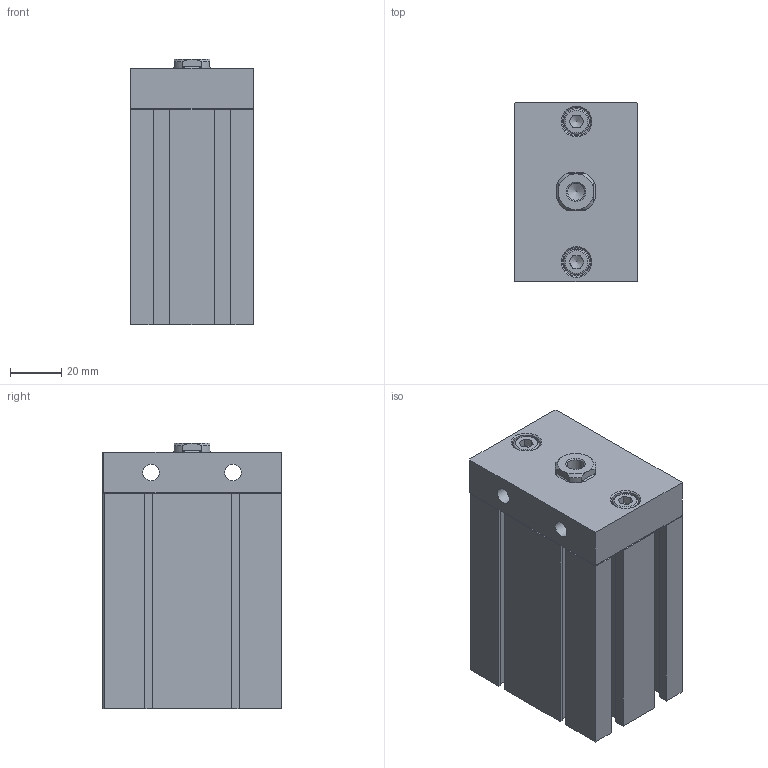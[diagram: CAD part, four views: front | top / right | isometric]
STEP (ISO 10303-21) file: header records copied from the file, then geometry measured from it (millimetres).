
FILE_DESCRIPTION((''),'2;1');
FILE_NAME('I:\3D電子目錄\氣缸\ND\ND\ND40\ND40x50.stp','2007-07-30T19:07:11',('Administrator'),(''),'Autodesk Inventor 11','Autodesk Inventor 11','');
FILE_SCHEMA(('AUTOMOTIVE_DESIGN { 1 0 10303 214 1 1 1 1 }'));
Length unit declared in the file: millimetre
Products named in the file (4): ND40; R 形環 42; ISO 4762 M6 x 20
Assembly tree (4 placements, depth 2):
  ND40
    ND40
    R 形環 42
    ISO 4762 M6 x 20  x2
Bounding box: 48 x 70.1 x 104 mm (x, y, z)
Volume: 302639.8 mm3; surface area: 49729 mm2
Topology: 5 solids, 5 shells, 195 faces, 467 edges, 297 vertices
Faces by surface type: plane 133, cylinder 25, cone 18, bspline 16, torus 3
Full cylindrical faces by diameter (mm): 1.9 x2, 2.2 x2, 6 x2, 6.5 x2, 10 x2, 11 x2, 29 x1, 42 x1, 44.5 x1
Entity records: 5217 total; most frequent: CARTESIAN_POINT 1095, DIRECTION 812, ORIENTED_EDGE 782, EDGE_CURVE 391, VECTOR 288, LINE 288, VERTEX_POINT 271, AXIS2_PLACEMENT_3D 262
